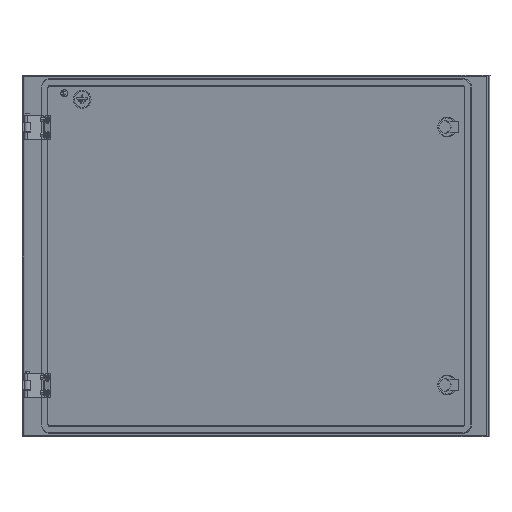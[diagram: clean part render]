
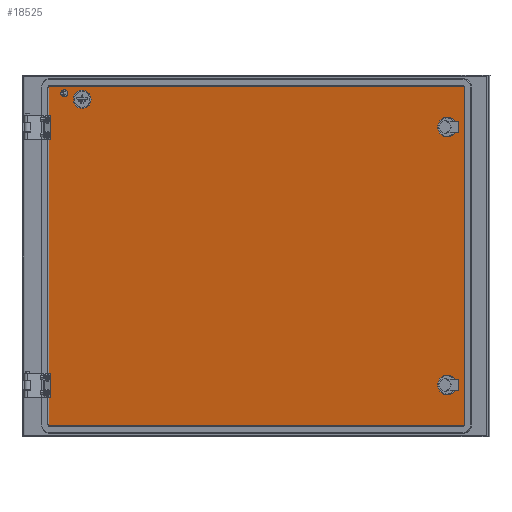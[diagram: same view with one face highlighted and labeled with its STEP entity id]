
A CAD part, left-side view. The second image highlights one B-rep face of the part: STEP entity #18525.
In plain terms, the highlighted planar face has unit normal (-0.966, 0.259, 0).
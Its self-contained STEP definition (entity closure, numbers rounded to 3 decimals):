
#7 = FACE_BOUND ( 'NONE', #8244, .T. ) ;
#690 = AXIS2_PLACEMENT_3D ( 'NONE', #1401, #10652, #17161 ) ;
#725 = DIRECTION ( 'NONE',  ( -0.966, 0.259, 0. ) ) ;
#726 = CARTESIAN_POINT ( 'NONE',  ( -11.304, -27.845, 283. ) ) ;
#925 = ORIENTED_EDGE ( 'NONE', *, *, #15551, .F. ) ;
#948 = VERTEX_POINT ( 'NONE', #8065 ) ;
#985 = DIRECTION ( 'NONE',  ( -0.966, 0.259, 0. ) ) ;
#1118 = CARTESIAN_POINT ( 'NONE',  ( 2.918, 25.285, 303. ) ) ;
#1154 = EDGE_CURVE ( 'NONE', #16797, #948, #11645, .T. ) ;
#1378 = PLANE ( 'NONE',  #7427 ) ;
#1401 = CARTESIAN_POINT ( 'NONE',  ( -3.546, 1.135, 293. ) ) ;
#1433 = CARTESIAN_POINT ( 'NONE',  ( -7.425, -13.355, 283. ) ) ;
#1658 = AXIS2_PLACEMENT_3D ( 'NONE', #13562, #725, #19849 ) ;
#1682 = DIRECTION ( 'NONE',  ( 0.966, -0.259, 0. ) ) ;
#2078 = VECTOR ( 'NONE', #13786, 1000. ) ;
#2354 = CIRCLE ( 'NONE', #15452, 16. ) ;
#2514 = CARTESIAN_POINT ( 'NONE',  ( 3.435, 27.217, 303. ) ) ;
#2609 = EDGE_CURVE ( 'NONE', #948, #20023, #14388, .T. ) ;
#2671 = LINE ( 'NONE', #15708, #11410 ) ;
#2825 = CIRCLE ( 'NONE', #5492, 16. ) ;
#3353 = FACE_BOUND ( 'NONE', #7356, .T. ) ;
#3581 = EDGE_CURVE ( 'NONE', #15179, #19812, #15426, .T. ) ;
#3939 = EDGE_CURVE ( 'NONE', #12367, #6749, #2671, .T. ) ;
#4127 = CIRCLE ( 'NONE', #6463, 15. ) ;
#4194 = DIRECTION ( 'NONE',  ( -0.966, 0.259, 0. ) ) ;
#4234 = ORIENTED_EDGE ( 'NONE', *, *, #3939, .T. ) ;
#4355 = DIRECTION ( 'NONE',  ( -0.259, -0.966, 0. ) ) ;
#4410 = ORIENTED_EDGE ( 'NONE', *, *, #3581, .F. ) ;
#4511 = ORIENTED_EDGE ( 'NONE', *, *, #14417, .F. ) ;
#4526 = VERTEX_POINT ( 'NONE', #13573 ) ;
#5457 = DIRECTION ( 'NONE',  ( -0.966, 0.259, 0. ) ) ;
#5474 = CARTESIAN_POINT ( 'NONE',  ( -176.534, -645.113, 237.5 ) ) ;
#5492 = AXIS2_PLACEMENT_3D ( 'NONE', #8046, #16142, #10046 ) ;
#5640 = AXIS2_PLACEMENT_3D ( 'NONE', #7309, #20332, #18558 ) ;
#5769 = CARTESIAN_POINT ( 'NONE',  ( -11.304, -27.845, 283. ) ) ;
#5945 = CARTESIAN_POINT ( 'NONE',  ( -172.397, -629.657, 237.5 ) ) ;
#6463 = AXIS2_PLACEMENT_3D ( 'NONE', #5769, #5457, #8916 ) ;
#6479 = VECTOR ( 'NONE', #17576, 1000. ) ;
#6749 = VERTEX_POINT ( 'NONE', #12193 ) ;
#6816 = EDGE_CURVE ( 'NONE', #8533, #4526, #17004, .T. ) ;
#6869 = AXIS2_PLACEMENT_3D ( 'NONE', #7917, #19067, #7616 ) ;
#7134 = CARTESIAN_POINT ( 'NONE',  ( 2.918, 25.285, 305. ) ) ;
#7257 = CARTESIAN_POINT ( 'NONE',  ( 3.435, 27.217, 25. ) ) ;
#7309 = CARTESIAN_POINT ( 'NONE',  ( -179.378, -655.739, 303. ) ) ;
#7356 = EDGE_LOOP ( 'NONE', ( #7740, #925 ) ) ;
#7427 = AXIS2_PLACEMENT_3D ( 'NONE', #17439, #1682, #15782 ) ;
#7503 = DIRECTION ( 'NONE',  ( 0., 0., -1. ) ) ;
#7616 = DIRECTION ( 'NONE',  ( 0.259, 0.966, 0. ) ) ;
#7673 = FACE_BOUND ( 'NONE', #13685, .T. ) ;
#7688 = ORIENTED_EDGE ( 'NONE', *, *, #1154, .F. ) ;
#7740 = ORIENTED_EDGE ( 'NONE', *, *, #16963, .F. ) ;
#7917 = CARTESIAN_POINT ( 'NONE',  ( -172.397, -629.657, 237.5 ) ) ;
#8046 = CARTESIAN_POINT ( 'NONE',  ( -172.397, -629.657, -187.5 ) ) ;
#8065 = CARTESIAN_POINT ( 'NONE',  ( -179.378, -655.739, 305. ) ) ;
#8120 = CARTESIAN_POINT ( 'NONE',  ( -179.896, -657.671, 303. ) ) ;
#8244 = EDGE_LOOP ( 'NONE', ( #12552, #12825 ) ) ;
#8519 = VERTEX_POINT ( 'NONE', #9308 ) ;
#8533 = VERTEX_POINT ( 'NONE', #1433 ) ;
#8779 = DIRECTION ( 'NONE',  ( 0.259, 0.966, 0. ) ) ;
#8871 = DIRECTION ( 'NONE',  ( 0.259, 0.966, 0. ) ) ;
#8916 = DIRECTION ( 'NONE',  ( 0.259, 0.966, 0. ) ) ;
#9004 = VERTEX_POINT ( 'NONE', #17666 ) ;
#9164 = ORIENTED_EDGE ( 'NONE', *, *, #13767, .F. ) ;
#9308 = CARTESIAN_POINT ( 'NONE',  ( -168.26, -614.201, 237.5 ) ) ;
#9434 = ORIENTED_EDGE ( 'NONE', *, *, #15740, .F. ) ;
#9546 = CARTESIAN_POINT ( 'NONE',  ( -179.896, -657.671, 303. ) ) ;
#10046 = DIRECTION ( 'NONE',  ( 0.259, 0.966, 0. ) ) ;
#10111 = AXIS2_PLACEMENT_3D ( 'NONE', #12169, #16660, #8779 ) ;
#10291 = AXIS2_PLACEMENT_3D ( 'NONE', #726, #4194, #10609 ) ;
#10430 = CIRCLE ( 'NONE', #690, 2.65 ) ;
#10504 = EDGE_CURVE ( 'NONE', #8519, #18189, #2354, .T. ) ;
#10609 = DIRECTION ( 'NONE',  ( 0.259, 0.966, 0. ) ) ;
#10614 = CARTESIAN_POINT ( 'NONE',  ( -4.21, -1.343, 292.334 ) ) ;
#10652 = DIRECTION ( 'NONE',  ( -0.966, 0.259, 0. ) ) ;
#10698 = AXIS2_PLACEMENT_3D ( 'NONE', #1118, #18236, #8871 ) ;
#10984 = LINE ( 'NONE', #8120, #6479 ) ;
#10987 = CARTESIAN_POINT ( 'NONE',  ( 3.435, 27.217, -253. ) ) ;
#11118 = VERTEX_POINT ( 'NONE', #2514 ) ;
#11351 = FACE_OUTER_BOUND ( 'NONE', #16315, .T. ) ;
#11396 = ORIENTED_EDGE ( 'NONE', *, *, #17364, .F. ) ;
#11410 = VECTOR ( 'NONE', #4355, 1000. ) ;
#11553 = AXIS2_PLACEMENT_3D ( 'NONE', #16375, #16581, #19526 ) ;
#11645 = LINE ( 'NONE', #7134, #19221 ) ;
#11762 = CARTESIAN_POINT ( 'NONE',  ( -2.883, 3.612, 293.666 ) ) ;
#12008 = VERTEX_POINT ( 'NONE', #13937 ) ;
#12169 = CARTESIAN_POINT ( 'NONE',  ( -172.397, -629.657, -187.5 ) ) ;
#12193 = CARTESIAN_POINT ( 'NONE',  ( -179.378, -655.739, -255. ) ) ;
#12367 = VERTEX_POINT ( 'NONE', #20497 ) ;
#12552 = ORIENTED_EDGE ( 'NONE', *, *, #6816, .F. ) ;
#12626 = ORIENTED_EDGE ( 'NONE', *, *, #10504, .F. ) ;
#12825 = ORIENTED_EDGE ( 'NONE', *, *, #13916, .F. ) ;
#12911 = CARTESIAN_POINT ( 'NONE',  ( 2.918, 25.285, 305. ) ) ;
#13008 = EDGE_CURVE ( 'NONE', #11118, #16797, #13053, .T. ) ;
#13053 = CIRCLE ( 'NONE', #10698, 2. ) ;
#13134 = VERTEX_POINT ( 'NONE', #10987 ) ;
#13458 = AXIS2_PLACEMENT_3D ( 'NONE', #15606, #985, #7503 ) ;
#13562 = CARTESIAN_POINT ( 'NONE',  ( -3.546, 1.135, 293. ) ) ;
#13572 = CIRCLE ( 'NONE', #11553, 2. ) ;
#13573 = CARTESIAN_POINT ( 'NONE',  ( -15.182, -42.335, 283. ) ) ;
#13646 = ORIENTED_EDGE ( 'NONE', *, *, #15152, .T. ) ;
#13685 = EDGE_LOOP ( 'NONE', ( #12626, #9434 ) ) ;
#13767 = EDGE_CURVE ( 'NONE', #13134, #11118, #16611, .T. ) ;
#13786 = DIRECTION ( 'NONE',  ( 0., 0., 1. ) ) ;
#13916 = EDGE_CURVE ( 'NONE', #4526, #8533, #4127, .T. ) ;
#13937 = CARTESIAN_POINT ( 'NONE',  ( -179.896, -657.671, -253. ) ) ;
#14388 = CIRCLE ( 'NONE', #5640, 2. ) ;
#14417 = EDGE_CURVE ( 'NONE', #20023, #12008, #10984, .T. ) ;
#15127 = CARTESIAN_POINT ( 'NONE',  ( -176.534, -645.113, -187.5 ) ) ;
#15152 = EDGE_CURVE ( 'NONE', #13134, #12367, #13572, .T. ) ;
#15179 = VERTEX_POINT ( 'NONE', #11762 ) ;
#15426 = CIRCLE ( 'NONE', #1658, 2.65 ) ;
#15452 = AXIS2_PLACEMENT_3D ( 'NONE', #5945, #15531, #15841 ) ;
#15492 = CIRCLE ( 'NONE', #10111, 16. ) ;
#15531 = DIRECTION ( 'NONE',  ( -0.966, 0.259, 0. ) ) ;
#15551 = EDGE_CURVE ( 'NONE', #19675, #9004, #2825, .T. ) ;
#15606 = CARTESIAN_POINT ( 'NONE',  ( -179.378, -655.739, -253. ) ) ;
#15708 = CARTESIAN_POINT ( 'NONE',  ( 2.918, 25.285, -255. ) ) ;
#15740 = EDGE_CURVE ( 'NONE', #18189, #8519, #17928, .T. ) ;
#15782 = DIRECTION ( 'NONE',  ( 0., 0., -1. ) ) ;
#15841 = DIRECTION ( 'NONE',  ( 0.259, 0.966, 0. ) ) ;
#15889 = FACE_BOUND ( 'NONE', #20387, .T. ) ;
#16130 = CIRCLE ( 'NONE', #13458, 2. ) ;
#16142 = DIRECTION ( 'NONE',  ( -0.966, 0.259, 0. ) ) ;
#16315 = EDGE_LOOP ( 'NONE', ( #9164, #13646, #4234, #20079, #4511, #18988, #7688, #19879 ) ) ;
#16375 = CARTESIAN_POINT ( 'NONE',  ( 2.918, 25.285, -253. ) ) ;
#16581 = DIRECTION ( 'NONE',  ( -0.966, 0.259, 0. ) ) ;
#16611 = LINE ( 'NONE', #7257, #2078 ) ;
#16660 = DIRECTION ( 'NONE',  ( -0.966, 0.259, 0. ) ) ;
#16797 = VERTEX_POINT ( 'NONE', #12911 ) ;
#16963 = EDGE_CURVE ( 'NONE', #9004, #19675, #15492, .T. ) ;
#17004 = CIRCLE ( 'NONE', #10291, 15. ) ;
#17161 = DIRECTION ( 'NONE',  ( 0.259, 0.966, 0. ) ) ;
#17364 = EDGE_CURVE ( 'NONE', #19812, #15179, #10430, .T. ) ;
#17439 = CARTESIAN_POINT ( 'NONE',  ( -131.283, -476.065, 691.5 ) ) ;
#17576 = DIRECTION ( 'NONE',  ( 0., 0., -1. ) ) ;
#17666 = CARTESIAN_POINT ( 'NONE',  ( -168.26, -614.201, -187.5 ) ) ;
#17928 = CIRCLE ( 'NONE', #6869, 16. ) ;
#18004 = EDGE_CURVE ( 'NONE', #6749, #12008, #16130, .T. ) ;
#18189 = VERTEX_POINT ( 'NONE', #5474 ) ;
#18236 = DIRECTION ( 'NONE',  ( 0.966, -0.259, 0. ) ) ;
#18258 = DIRECTION ( 'NONE',  ( -0.259, -0.966, 0. ) ) ;
#18525 = ADVANCED_FACE ( 'NONE', ( #11351, #3353, #7673, #15889, #7 ), #1378, .F. ) ;
#18558 = DIRECTION ( 'NONE',  ( 0., 0., 1. ) ) ;
#18988 = ORIENTED_EDGE ( 'NONE', *, *, #2609, .F. ) ;
#19067 = DIRECTION ( 'NONE',  ( -0.966, 0.259, 0. ) ) ;
#19221 = VECTOR ( 'NONE', #18258, 1000. ) ;
#19526 = DIRECTION ( 'NONE',  ( 0.259, 0.966, 0. ) ) ;
#19675 = VERTEX_POINT ( 'NONE', #15127 ) ;
#19812 = VERTEX_POINT ( 'NONE', #10614 ) ;
#19849 = DIRECTION ( 'NONE',  ( 0.259, 0.966, 0. ) ) ;
#19879 = ORIENTED_EDGE ( 'NONE', *, *, #13008, .F. ) ;
#20023 = VERTEX_POINT ( 'NONE', #9546 ) ;
#20079 = ORIENTED_EDGE ( 'NONE', *, *, #18004, .T. ) ;
#20332 = DIRECTION ( 'NONE',  ( 0.966, -0.259, 0. ) ) ;
#20387 = EDGE_LOOP ( 'NONE', ( #11396, #4410 ) ) ;
#20497 = CARTESIAN_POINT ( 'NONE',  ( 2.918, 25.285, -255. ) ) ;
